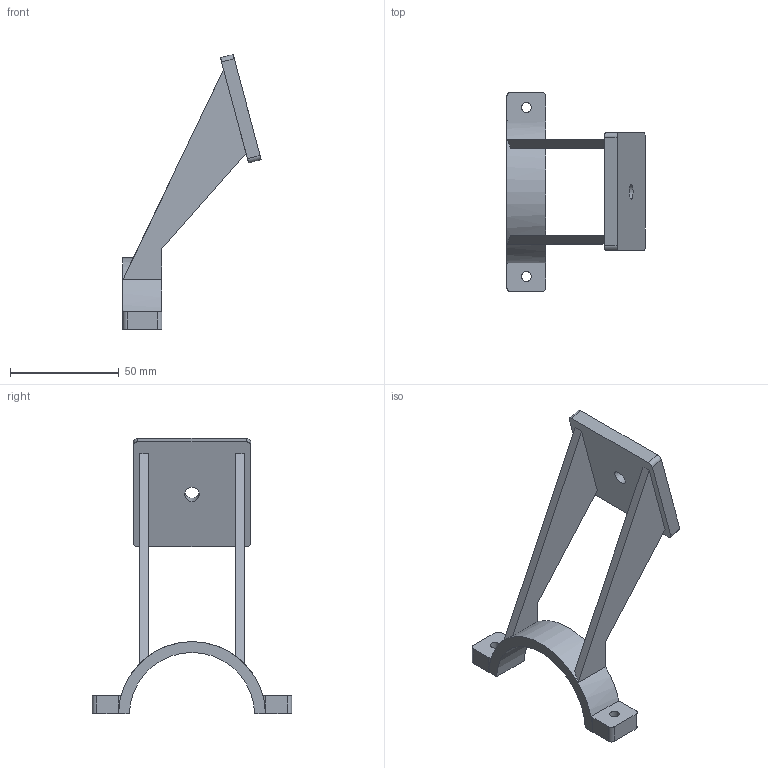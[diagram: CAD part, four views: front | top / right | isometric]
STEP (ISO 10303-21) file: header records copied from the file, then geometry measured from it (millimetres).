
FILE_DESCRIPTION(('Open CASCADE Model'),'2;1');
FILE_NAME('Open CASCADE Shape Model','2026-09-19T13:10:39',('Author'),( 'Open CASCADE'),'Open CASCADE STEP processor 7.9','Open CASCADE 7.9' ,'Unknown');
FILE_SCHEMA(('AUTOMOTIVE_DESIGN { 1 0 10303 214 1 1 1 1 }'));
Length unit declared in the file: millimetre
Products named in the file (1): Open CASCADE STEP translator 7.9 2
Bounding box: 63.63 x 91.6 x 126.38 mm (x, y, z)
Volume: 40837.2 mm3; surface area: 20056.6 mm2
Topology: 1 solids, 1 shells, 43 faces, 123 edges, 82 vertices
Faces by surface type: plane 26, cylinder 17
Full cylindrical faces by diameter (mm): 4.5 x2, 6.8 x1
Entity records: 3268 total; most frequent: CARTESIAN_POINT 877, DIRECTION 427, ORIENTED_EDGE 246, PCURVE 246, DEFINITIONAL_REPRESENTATION 246, LINE 243, VECTOR 243, EDGE_CURVE 123
